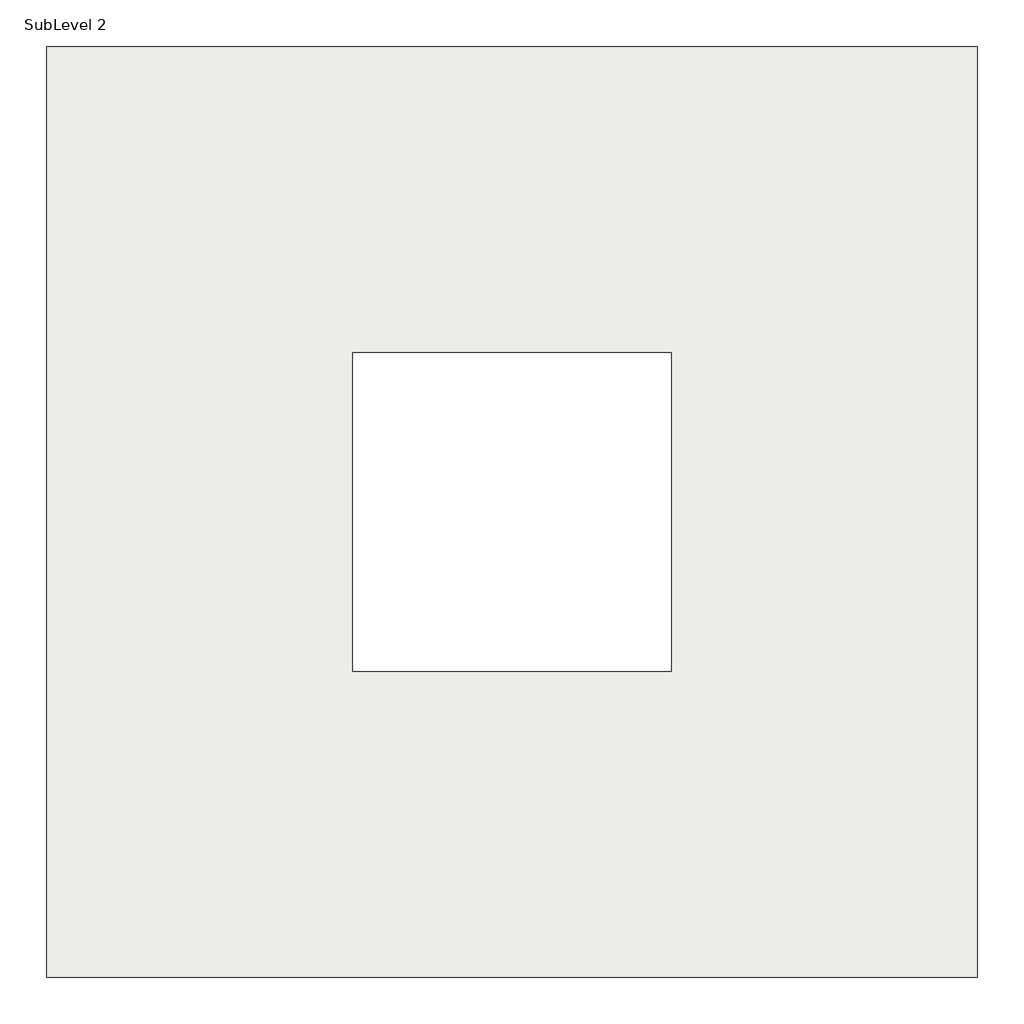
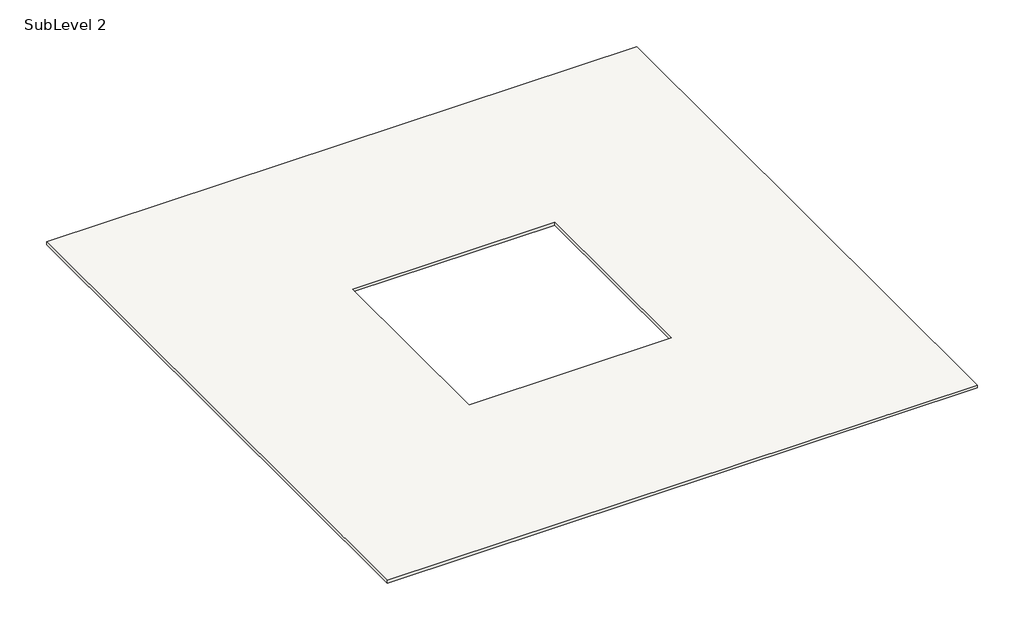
# One storey: 1 slab.
"""IFC4 building model written with IfcOpenShell, lengths in millimetres."""

import ifcopenshell
import ifcopenshell.guid

model = None  # the IFC model being written
_history = None  # IfcOwnerHistory: only IFC2X3 demands one
_inside = {}  # id of a spatial element -> (the spatial element, [elements in it])
_under = {}  # id of a project, library or spatial element -> (it, [spatial elements below it])
_declared = {}  # id of a project -> (the project, [libraries it declares])
_typed = {}  # id of a type object -> (the type object, [elements of that type])
_made_of = {}  # id of a material, layer set ... -> (it, [elements and type objects made of it])


def new_model(schema):
    """Start an empty IFC model of exactly this schema.

    Asked for "IFC4X3", IfcOpenShell would pick the latest addendum, in which some entities
    have other attributes; the version numbers below select the first issue.
    IFC2X3 requires an IfcOwnerHistory on every rooted entity: one is made here for all.
    """
    global model, _history
    if schema == "IFC4X3":
        model = ifcopenshell.file(schema_version=(4, 3, 0, 0))
    else:
        model = ifcopenshell.file(schema=schema)
    _inside.clear()
    _under.clear()
    _declared.clear()
    _typed.clear()
    _made_of.clear()
    _history = None
    if model.schema == "IFC2X3":
        org = make("IfcOrganization", Name="unknown")
        user = make(
            "IfcPersonAndOrganization",
            ThePerson=make("IfcPerson", FamilyName="unknown"),
            TheOrganization=org,
        )
        app = make(
            "IfcApplication",
            ApplicationDeveloper=org,
            Version="unknown",
            ApplicationFullName="unknown",
            ApplicationIdentifier="unknown",
        )
        _history = make(
            "IfcOwnerHistory",
            OwningUser=user,
            OwningApplication=app,
            ChangeAction="ADDED",
            CreationDate=0,
        )
    return model


def make(cls, **values):
    """One entity of the class cls with the attributes given. An attribute that is None is left unset."""
    return model.create_entity(
        cls, **{name: value for name, value in values.items() if value is not None}
    )


def rooted(cls, **values):
    """An entity with a GlobalId (a new one), such as an element, a storey or a relation."""
    return make(cls, GlobalId=ifcopenshell.guid.new(), OwnerHistory=_history, **values)


def si_unit(unit_type, name, prefix=None):
    """IfcSIUnit, for example si_unit("LENGTHUNIT", "METRE", prefix="MILLI")."""
    return make("IfcSIUnit", UnitType=unit_type, Prefix=prefix, Name=name)


def assignment(units):
    """IfcUnitAssignment: the units of a project."""
    return None if units is None else make("IfcUnitAssignment", Units=units)


def point(xyz):
    """IfcCartesianPoint."""
    return None if xyz is None else make("IfcCartesianPoint", Coordinates=xyz)


def direction(xyz):
    """IfcDirection."""
    return None if xyz is None else make("IfcDirection", DirectionRatios=xyz)


def frame(location, z_axis=None, x_axis=None):
    """IfcAxis2Placement3D, a coordinate frame: its origin and axes. An axis left out is left unset."""
    return make(
        "IfcAxis2Placement3D",
        Location=point(location),
        Axis=direction(z_axis),
        RefDirection=direction(x_axis),
    )


def origin():
    """The frame at (0, 0, 0) with its axes left unset."""
    return frame((0.0, 0.0, 0.0))


def place(relative_to, where):
    """IfcLocalPlacement: puts the frame where relative to a parent placement (None: the world)."""
    return make(
        "IfcLocalPlacement", PlacementRelTo=relative_to, RelativePlacement=where
    )


def context(
    kind, dimensions, precision=None, world=None, true_north=None, identifier=None
):
    """IfcGeometricRepresentationContext, for example the 3D "Model" context."""
    return make(
        "IfcGeometricRepresentationContext",
        ContextIdentifier=identifier,
        ContextType=kind,
        CoordinateSpaceDimension=dimensions,
        Precision=precision,
        WorldCoordinateSystem=world,
        TrueNorth=true_north,
    )


def project(units=None, contexts=None):
    """IfcProject with its units and contexts."""
    return rooted(
        "IfcProject",
        Name="project",
        RepresentationContexts=contexts,
        UnitsInContext=assignment(units),
    )


def spatial(cls, under=None, at=None, **own):
    """A site, building, storey or space (cls), placed at a placement, below another one or the project."""
    s = rooted(cls, ObjectPlacement=at, **own)
    if under is not None:
        _under.setdefault(under.id(), (under, []))[1].append(s)
    return s


def polyline(points):
    """IfcPolyline through the points."""
    return make("IfcPolyline", Points=[point(p) for p in points])


def outline(outer, holes=None, kind="AREA"):
    """IfcArbitraryClosedProfileDef: a profile drawn as a closed curve; with holes, ...WithVoids."""
    if holes is None:
        return make("IfcArbitraryClosedProfileDef", ProfileType=kind, OuterCurve=outer)
    return make(
        "IfcArbitraryProfileDefWithVoids",
        ProfileType=kind,
        OuterCurve=outer,
        InnerCurves=holes,
    )


def extrude(swept, where, along, depth):
    """IfcExtrudedAreaSolid: the profile swept, set in the frame where, extruded along a direction by depth."""
    return make(
        "IfcExtrudedAreaSolid",
        SweptArea=swept,
        Position=where,
        ExtrudedDirection=direction(along),
        Depth=depth,
    )


def shape(context_of_items, identifier, shape_type, items):
    """IfcShapeRepresentation: the items that make up one representation, for example the "Body"."""
    return make(
        "IfcShapeRepresentation",
        ContextOfItems=context_of_items,
        RepresentationIdentifier=identifier,
        RepresentationType=shape_type,
        Items=items,
    )


def made_of(thing, what):
    """Note that an element or type object is made of a material, layer set ...; save() writes the relation."""
    if what is not None:
        _made_of.setdefault(what.id(), (what, []))[1].append(thing)
    return thing


def element(
    cls,
    number,
    at=None,
    inside=None,
    cuts=None,
    type_object=None,
    material=None,
    context=None,
    identifier="Body",
    shape_type=None,
    held_by="IfcProductDefinitionShape",
    body=None,
    shapes=None,
    **own,
):
    """One element of the class cls, such as IfcWall. Its Tag is "e" and its number.

    at: its placement. inside: the storey or other place that contains it. cuts: it is an
    opening in that element (IfcRelVoidsElement). A single representation is given by context,
    identifier, shape_type and body (its items); several are given by shapes. held_by: the class
    of the entity that holds the representations. save() writes the other relations.
    """
    e = rooted(cls, Tag="e%d" % number, ObjectPlacement=at, **own)
    if body is not None:
        shapes = [shape(context, identifier, shape_type, body)]
    if shapes is not None:
        e.Representation = make(held_by, Representations=shapes)
    if inside is not None:
        _inside.setdefault(inside.id(), (inside, []))[1].append(e)
    if cuts is not None:
        rooted(
            "IfcRelVoidsElement", RelatingBuildingElement=cuts, RelatedOpeningElement=e
        )
    if type_object is not None:
        _typed.setdefault(type_object.id(), (type_object, []))[1].append(e)
    return made_of(e, material)


def aggregate(whole, parts):
    """IfcRelAggregates: a whole, such as a stair, and the parts it consists of."""
    return rooted("IfcRelAggregates", RelatingObject=whole, RelatedObjects=parts)


def save(model, path):
    """Write the relations noted so far, then the file.

    IfcRelAggregates (storeys below a building ...), IfcRelContainedInSpatialStructure (elements
    in a storey), IfcRelDefinesByType, IfcRelAssociatesMaterial and IfcRelDeclares: one each for
    every whole, place, type object, material and project.
    """
    for whole, parts in _under.values():
        aggregate(whole, parts)
    for where, things in _inside.values():
        rooted(
            "IfcRelContainedInSpatialStructure",
            RelatedElements=things,
            RelatingStructure=where,
        )
    for kind, things in _typed.values():
        rooted("IfcRelDefinesByType", RelatedObjects=things, RelatingType=kind)
    for what, things in _made_of.values():
        rooted("IfcRelAssociatesMaterial", RelatedObjects=things, RelatingMaterial=what)
    for by, libraries in _declared.values():
        rooted("IfcRelDeclares", RelatingContext=by, RelatedDefinitions=libraries)
    model.write(path)


model = new_model("IFC4")

# Units and contexts
model_context = context("Model", 3, world=origin())
ifc_project = project(units=[si_unit("LENGTHUNIT", "METRE", prefix="MILLI")], contexts=[model_context])

# Site, building, storey
site = spatial("IfcSite", under=ifc_project)
building = spatial("IfcBuilding", under=site)
storey = spatial("IfcBuildingStorey", under=building, Name="SubLevel 2", Elevation=-9144.0)

# Slab
placement = place(None, origin())
element("IfcSlab", 1, ObjectType="3\" LW Concrete on 2\" Metal Deck", at=placement, inside=storey, context=model_context, shape_type="SweptSolid", body=[
    extrude(outline(polyline([(8517.7973043, 11822.6291012), (8517.7973043, -12561.3708988), (-15866.2026957, -12561.3708988), (-15866.2026957, 11822.6291012), (8517.7973043, 11822.6291012)]), holes=[polyline([(-7844.5651957, 3800.9916012), (-7844.5651957, -4539.7333988), (496.1598043, -4539.7333988), (496.1598043, 3800.9916012), (-7844.5651957, 3800.9916012)])]), frame((0.0, 0.0, -9271.0), z_axis=(0.0, 0.0, 1.0), x_axis=(1.0, 0.0, 0.0)), (0.0, 0.0, 1.0), 127.0),
])

save(model, "model.ifc")
